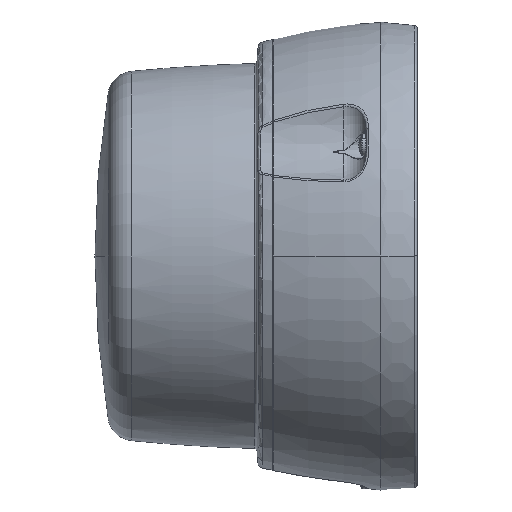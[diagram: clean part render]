
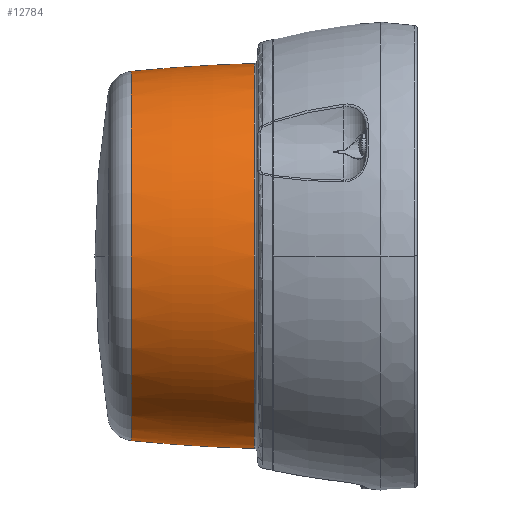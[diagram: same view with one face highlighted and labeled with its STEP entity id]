
A CAD part, left-side view. The second image highlights one B-rep face of the part: STEP entity #12784.
In plain terms, the highlighted toroidal (fillet/blend) face has major radius 533.287 mm and minor radius 600 mm.
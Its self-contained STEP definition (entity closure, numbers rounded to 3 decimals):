
#2645 = AXIS2_PLACEMENT_3D ( 'NONE', #30836, #88422, #39107 ) ;
#2651 = EDGE_CURVE ( 'NONE', #41555, #14169, #78381, .T. ) ;
#3652 = DIRECTION ( 'NONE',  ( 0., 0., 1. ) ) ;
#4594 = CARTESIAN_POINT ( 'NONE',  ( 0., 3.71, 66.475 ) ) ;
#4969 = DIRECTION ( 'NONE',  ( 0., 0., -1. ) ) ;
#7149 = DIRECTION ( 'NONE',  ( 0., 0., -1. ) ) ;
#8169 = VERTEX_POINT ( 'NONE', #4594 ) ;
#12784 = ADVANCED_FACE ( 'NONE', ( #78483 ), #100307, .T. ) ;
#14169 = VERTEX_POINT ( 'NONE', #98377 ) ;
#17991 = EDGE_LOOP ( 'NONE', ( #47487, #41925, #77314, #93149 ) ) ;
#19732 = CARTESIAN_POINT ( 'NONE',  ( 0., 46.183, -63.768 ) ) ;
#29040 = VERTEX_POINT ( 'NONE', #84586 ) ;
#30836 = CARTESIAN_POINT ( 'NONE',  ( 0., 3.71, 0. ) ) ;
#32769 = EDGE_CURVE ( 'NONE', #29040, #8169, #79845, .T. ) ;
#33604 = CARTESIAN_POINT ( 'NONE',  ( 0., 46.183, 0. ) ) ;
#39107 = DIRECTION ( 'NONE',  ( 0., 0., -1. ) ) ;
#41555 = VERTEX_POINT ( 'NONE', #19732 ) ;
#41867 = DIRECTION ( 'NONE',  ( 0., 0., -1. ) ) ;
#41925 = ORIENTED_EDGE ( 'NONE', *, *, #84854, .T. ) ;
#47487 = ORIENTED_EDGE ( 'NONE', *, *, #32769, .F. ) ;
#51338 = CIRCLE ( 'NONE', #77867, 63.768 ) ;
#52867 = DIRECTION ( 'NONE',  ( -1., 0., 0. ) ) ;
#54169 = DIRECTION ( 'NONE',  ( 1., 0., 0. ) ) ;
#55675 = DIRECTION ( 'NONE',  ( 0., -1., 0. ) ) ;
#63739 = AXIS2_PLACEMENT_3D ( 'NONE', #64395, #55675, #7149 ) ;
#64395 = CARTESIAN_POINT ( 'NONE',  ( 0., -13.197, 0. ) ) ;
#65496 = CIRCLE ( 'NONE', #2645, 66.475 ) ;
#66807 = AXIS2_PLACEMENT_3D ( 'NONE', #102041, #52867, #3652 ) ;
#67249 = EDGE_CURVE ( 'NONE', #14169, #8169, #65496, .T. ) ;
#77314 = ORIENTED_EDGE ( 'NONE', *, *, #2651, .T. ) ;
#77867 = AXIS2_PLACEMENT_3D ( 'NONE', #33604, #91165, #41867 ) ;
#78381 = CIRCLE ( 'NONE', #66807, 600. ) ;
#78483 = FACE_OUTER_BOUND ( 'NONE', #17991, .T. ) ;
#79845 = CIRCLE ( 'NONE', #96402, 600. ) ;
#84586 = CARTESIAN_POINT ( 'NONE',  ( 0., 46.183, 63.768 ) ) ;
#84854 = EDGE_CURVE ( 'NONE', #29040, #41555, #51338, .T. ) ;
#88422 = DIRECTION ( 'NONE',  ( 0., 1., 0. ) ) ;
#91165 = DIRECTION ( 'NONE',  ( 0., -1., 0. ) ) ;
#93149 = ORIENTED_EDGE ( 'NONE', *, *, #67249, .T. ) ;
#96402 = AXIS2_PLACEMENT_3D ( 'NONE', #103333, #54169, #4969 ) ;
#98377 = CARTESIAN_POINT ( 'NONE',  ( 0., 3.71, -66.475 ) ) ;
#100307 = TOROIDAL_SURFACE ( 'NONE', #63739, -533.287, 600. ) ;
#102041 = CARTESIAN_POINT ( 'NONE',  ( 0., -13.197, 533.287 ) ) ;
#103333 = CARTESIAN_POINT ( 'NONE',  ( 0., -13.197, -533.287 ) ) ;
